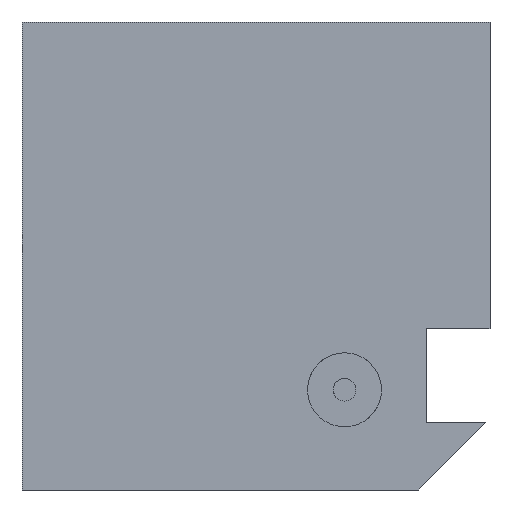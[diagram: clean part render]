
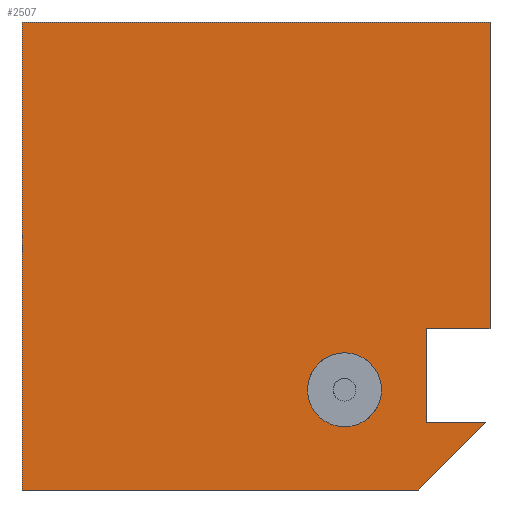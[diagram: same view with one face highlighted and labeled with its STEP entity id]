
A CAD part, front view. The second image highlights one B-rep face of the part: STEP entity #2507.
In plain terms, the highlighted planar face has unit normal (0, -1, 0).
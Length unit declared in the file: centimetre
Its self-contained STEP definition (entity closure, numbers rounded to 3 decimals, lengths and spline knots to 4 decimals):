
#7 = CARTESIAN_POINT ( 'NONE',  ( 689.1938, 0., 214.0959 ) ) ;
#32 = LINE ( 'NONE', #2381, #1772 ) ;
#48 = ORIENTED_EDGE ( 'NONE', *, *, #846, .T. ) ;
#148 = VECTOR ( 'NONE', #293, 100. ) ;
#160 = CARTESIAN_POINT ( 'NONE',  ( 863.4112, 0., 143.1754 ) ) ;
#182 = ORIENTED_EDGE ( 'NONE', *, *, #2862, .T. ) ;
#188 = CARTESIAN_POINT ( 'NONE',  ( 0., 0., 1000. ) ) ;
#263 = CARTESIAN_POINT ( 'NONE',  ( 0., 0., 1000. ) ) ;
#267 = ORIENTED_EDGE ( 'NONE', *, *, #331, .T. ) ;
#276 = ORIENTED_EDGE ( 'NONE', *, *, #885, .F. ) ;
#293 = DIRECTION ( 'NONE',  ( 0., 0., 1. ) ) ;
#331 = EDGE_CURVE ( 'NONE', #708, #679, #997, .T. ) ;
#436 = DIRECTION ( 'NONE',  ( 0., 0., -1. ) ) ;
#461 = CARTESIAN_POINT ( 'NONE',  ( 1000., 0., 151.853 ) ) ;
#503 = VERTEX_POINT ( 'NONE', #782 ) ;
#510 = LINE ( 'NONE', #1240, #1125 ) ;
#520 = CARTESIAN_POINT ( 'NONE',  ( 1000., 0., 1000. ) ) ;
#530 = FACE_BOUND ( 'NONE', #2837, .T. ) ;
#549 = PLANE ( 'NONE',  #2526 ) ;
#588 = VERTEX_POINT ( 'NONE', #188 ) ;
#599 = EDGE_CURVE ( 'NONE', #879, #1219, #2956, .T. ) ;
#614 = EDGE_CURVE ( 'NONE', #503, #2753, #2414, .T. ) ;
#619 = EDGE_CURVE ( 'NONE', #2012, #879, #2566, .T. ) ;
#679 = VERTEX_POINT ( 'NONE', #1238 ) ;
#708 = VERTEX_POINT ( 'NONE', #2306 ) ;
#746 = DIRECTION ( 'NONE',  ( 0., 0., -1. ) ) ;
#782 = CARTESIAN_POINT ( 'NONE',  ( 689.1938, 0., 293.1416 ) ) ;
#799 = LINE ( 'NONE', #2188, #148 ) ;
#815 = CARTESIAN_POINT ( 'NONE',  ( 0., 0., 1000. ) ) ;
#844 = EDGE_LOOP ( 'NONE', ( #2603, #1288, #48, #267, #276, #2042, #182, #1055 ) ) ;
#846 = EDGE_CURVE ( 'NONE', #1219, #708, #799, .T. ) ;
#863 = CARTESIAN_POINT ( 'NONE',  ( 863.4112, 0., 143.1754 ) ) ;
#879 = VERTEX_POINT ( 'NONE', #2912 ) ;
#885 = EDGE_CURVE ( 'NONE', #2076, #679, #510, .T. ) ;
#887 = EDGE_CURVE ( 'NONE', #588, #2076, #1680, .T. ) ;
#911 = DIRECTION ( 'NONE',  ( 0., -1., 0. ) ) ;
#946 = DIRECTION ( 'NONE',  ( 0.707, 0., 0.707 ) ) ;
#997 = LINE ( 'NONE', #2867, #1253 ) ;
#1055 = ORIENTED_EDGE ( 'NONE', *, *, #2067, .T. ) ;
#1070 = LINE ( 'NONE', #2448, #2035 ) ;
#1074 = CARTESIAN_POINT ( 'NONE',  ( 689.1938, 0., 135.0503 ) ) ;
#1125 = VECTOR ( 'NONE', #746, 100. ) ;
#1179 = AXIS2_PLACEMENT_3D ( 'NONE', #1590, #911, #436 ) ;
#1219 = VERTEX_POINT ( 'NONE', #160 ) ;
#1238 = CARTESIAN_POINT ( 'NONE',  ( 1000., 0., 344.8243 ) ) ;
#1240 = CARTESIAN_POINT ( 'NONE',  ( 1000., 0., 1000. ) ) ;
#1253 = VECTOR ( 'NONE', #1630, 100. ) ;
#1288 = ORIENTED_EDGE ( 'NONE', *, *, #599, .T. ) ;
#1468 = VERTEX_POINT ( 'NONE', #2671 ) ;
#1473 = FACE_OUTER_BOUND ( 'NONE', #844, .T. ) ;
#1486 = AXIS2_PLACEMENT_3D ( 'NONE', #7, #3024, #1628 ) ;
#1590 = CARTESIAN_POINT ( 'NONE',  ( 689.1938, 0., 214.0959 ) ) ;
#1628 = DIRECTION ( 'NONE',  ( 0., 0., -1. ) ) ;
#1630 = DIRECTION ( 'NONE',  ( 1., 0., 0. ) ) ;
#1680 = LINE ( 'NONE', #815, #2105 ) ;
#1684 = ORIENTED_EDGE ( 'NONE', *, *, #614, .F. ) ;
#1686 = DIRECTION ( 'NONE',  ( 1., 0., 0. ) ) ;
#1772 = VECTOR ( 'NONE', #1686, 100. ) ;
#1836 = CARTESIAN_POINT ( 'NONE',  ( 848.147, 0., 0. ) ) ;
#1957 = ORIENTED_EDGE ( 'NONE', *, *, #2010, .F. ) ;
#2010 = EDGE_CURVE ( 'NONE', #2753, #503, #2109, .T. ) ;
#2011 = VECTOR ( 'NONE', #946, 100. ) ;
#2012 = VERTEX_POINT ( 'NONE', #1836 ) ;
#2035 = VECTOR ( 'NONE', #2904, 100. ) ;
#2042 = ORIENTED_EDGE ( 'NONE', *, *, #887, .F. ) ;
#2056 = DIRECTION ( 'NONE',  ( -1., 0., 0. ) ) ;
#2067 = EDGE_CURVE ( 'NONE', #1468, #2012, #32, .T. ) ;
#2076 = VERTEX_POINT ( 'NONE', #520 ) ;
#2105 = VECTOR ( 'NONE', #2631, 100. ) ;
#2109 = CIRCLE ( 'NONE', #1179, 79.0456 ) ;
#2188 = CARTESIAN_POINT ( 'NONE',  ( 863.4112, 0., 143.1754 ) ) ;
#2193 = DIRECTION ( 'NONE',  ( 0., 0., 1. ) ) ;
#2306 = CARTESIAN_POINT ( 'NONE',  ( 863.4112, 0., 344.8243 ) ) ;
#2381 = CARTESIAN_POINT ( 'NONE',  ( 0., 0., 0. ) ) ;
#2414 = CIRCLE ( 'NONE', #1486, 79.0456 ) ;
#2429 = DIRECTION ( 'NONE',  ( 0., 1., 0. ) ) ;
#2448 = CARTESIAN_POINT ( 'NONE',  ( 0., 0., 1000. ) ) ;
#2507 = ADVANCED_FACE ( 'NONE', ( #530, #1473 ), #549, .F. ) ;
#2526 = AXIS2_PLACEMENT_3D ( 'NONE', #263, #2429, #2193 ) ;
#2566 = LINE ( 'NONE', #461, #2011 ) ;
#2603 = ORIENTED_EDGE ( 'NONE', *, *, #619, .T. ) ;
#2631 = DIRECTION ( 'NONE',  ( 1., 0., 0. ) ) ;
#2671 = CARTESIAN_POINT ( 'NONE',  ( 0., 0., 0. ) ) ;
#2753 = VERTEX_POINT ( 'NONE', #1074 ) ;
#2837 = EDGE_LOOP ( 'NONE', ( #1957, #1684 ) ) ;
#2862 = EDGE_CURVE ( 'NONE', #588, #1468, #1070, .T. ) ;
#2867 = CARTESIAN_POINT ( 'NONE',  ( 863.4112, 0., 344.8243 ) ) ;
#2904 = DIRECTION ( 'NONE',  ( 0., 0., -1. ) ) ;
#2912 = CARTESIAN_POINT ( 'NONE',  ( 991.3224, 0., 143.1754 ) ) ;
#2952 = VECTOR ( 'NONE', #2056, 100. ) ;
#2956 = LINE ( 'NONE', #863, #2952 ) ;
#3024 = DIRECTION ( 'NONE',  ( 0., -1., 0. ) ) ;
